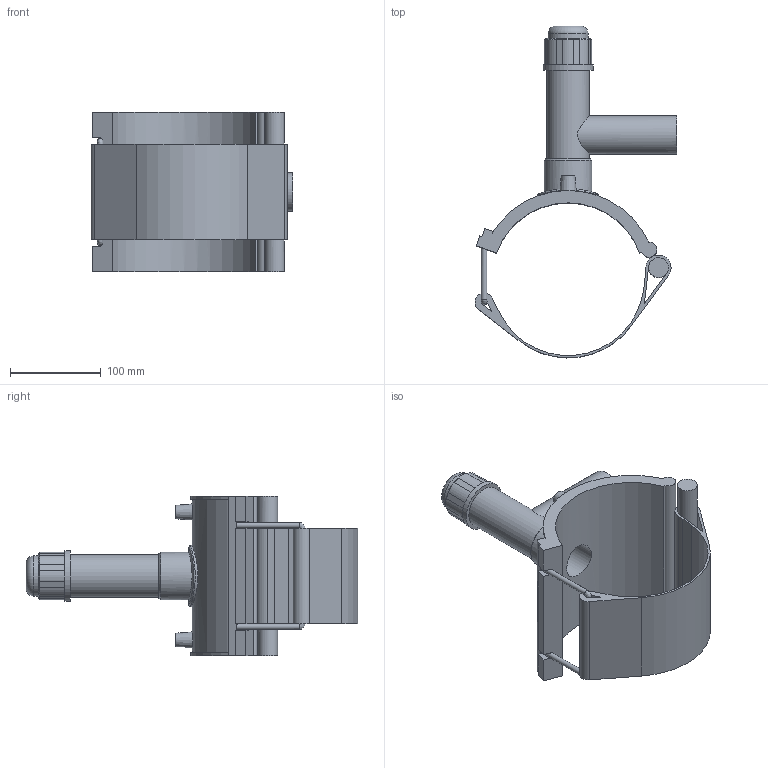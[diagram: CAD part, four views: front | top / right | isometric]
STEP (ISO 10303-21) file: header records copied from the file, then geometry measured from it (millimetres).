
FILE_DESCRIPTION(/* description */ ('PLASSON HIGH VOLUME TAPPING TEE 6''''IPS x 1 1/4''''IPS'),/* implementation_level */ '2;1');
FILE_NAME(/* name */ 'C:\Dropbox\KIMPROJECTS-Inventor 2019\99-16-3568-Processing Inch\ASTM ElectroFusion 2021\5913B\5913BB03060013.ipt.stp',/* time_stamp */ '2021-08-30T09:50:30+03:00',/* author */ ('KIM'),/* organization */ (''),/* preprocessor_version */ 'ST-DEVELOPER v17.2',/* originating_system */ 'Autodesk Inventor 2019',/* authorisation */ '');
FILE_SCHEMA (('AUTOMOTIVE_DESIGN { 1 0 10303 214 3 1 1 }'));
Length unit declared in the file: millimetre
Products named in the file (1): 5913BB03060013
Bounding box: 222.34 x 365.32 x 176.02 mm (x, y, z)
Volume: 980991.3 mm3; surface area: 263775 mm2
Topology: 1 solids, 1 shells, 126 faces, 333 edges, 210 vertices
Faces by surface type: plane 69, cylinder 42, cone 11, bspline 3, torus 1
Full cylindrical faces by diameter (mm): 4 x2, 6.048 x2, 10 x2, 21.84 x1, 33.68 x1, 38.573 x1, 42.1 x1, 44.083 x1, 46.838 x1, 52.349 x1, 55.104 x1, 67.2 x1
Entity records: 4541 total; most frequent: CARTESIAN_POINT 1305, DIRECTION 678, ORIENTED_EDGE 664, EDGE_CURVE 332, AXIS2_PLACEMENT_3D 245, VERTEX_POINT 210, LINE 188, VECTOR 188
